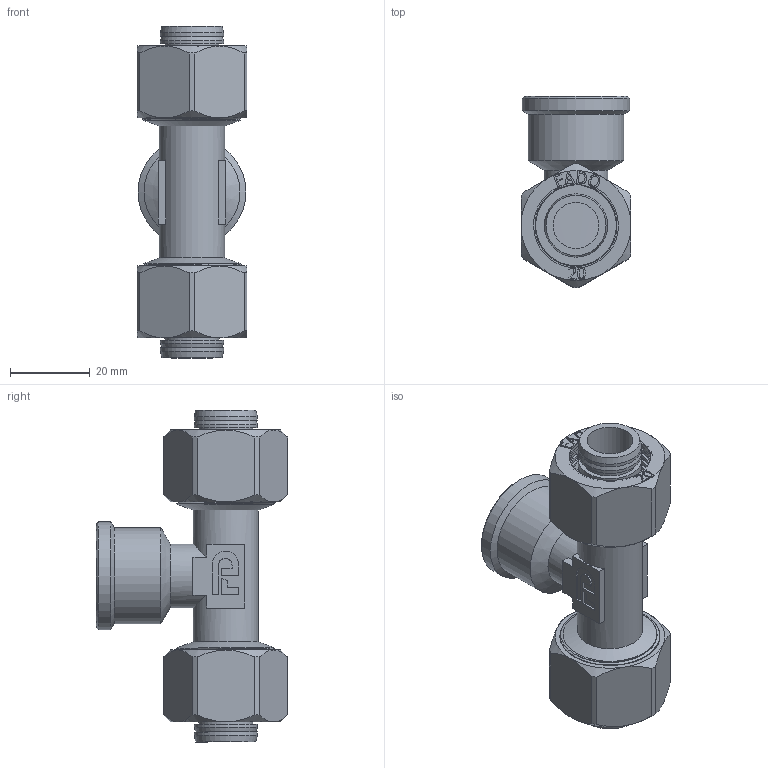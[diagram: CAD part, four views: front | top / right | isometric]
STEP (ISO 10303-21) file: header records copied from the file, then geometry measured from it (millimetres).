
FILE_DESCRIPTION(/* description */ (''),/* implementation_level */ '2;1');
FILE_NAME(/* name */ 'C:\Users\Doom\Desktop\Фадотех\Обжим\RFT12 20x12''''Fx20 30.03.2020\RFT12 20x12''''Fx20 30.03.2020.stp',/* time_stamp */ '2022-06-01T13:00:02+03:00',/* author */ ('Doom'),/* organization */ (''),/* preprocessor_version */ 'ST-DEVELOPER v18',/* originating_system */ 'Autodesk Inventor 2020',/* authorisation */ '');
FILE_SCHEMA (('AUTOMOTIVE_DESIGN { 1 0 10303 214 3 1 1 }'));
Length unit declared in the file: millimetre
Products named in the file (5): RFT12 20x12''Fx20 30.03.2020; RFM29 32x1.2M 30.03.2020; FADO MC Nut-20 15.02.2020; FADO MC Socket-20 15.02.2020; Olive 20 15.02.2020
Assembly tree (7 placements, depth 2):
  RFT12 20x12''Fx20 30.03.2020
    RFM29 32x1.2M 30.03.2020
    FADO MC Nut-20 15.02.2020  x2
    FADO MC Socket-20 15.02.2020  x2
    Olive 20 15.02.2020  x2
Bounding box: 27.5 x 47.9 x 83 mm (x, y, z)
Volume: 29602.9 mm3; surface area: 39324.1 mm2
Topology: 12 solids, 12 shells, 1064 faces, 2905 edges, 1943 vertices
Faces by surface type: bspline 518, plane 306, cylinder 175, cone 61, torus 4
Full cylindrical faces by diameter (mm): 11.5 x2, 12 x2, 13.531 x4, 14.5 x2, 15.802 x10, 16 x1, 16.3 x1, 17.391 x2, 17.5 x2, 18 x2, 18.26 x8, 19.044 x1, 20.5 x2, 20.95 x2, 22.776 x16, 23 x2, 23.517 x4, 24 x1, 24.1 x2, 25 x28, 27 x1
Entity records: 41895 total; most frequent: CARTESIAN_POINT 28119, ORIENTED_EDGE 3314, DIRECTION 1980, EDGE_CURVE 1657, VERTEX_POINT 1107, EDGE_LOOP 670, LINE 670, VECTOR 670
